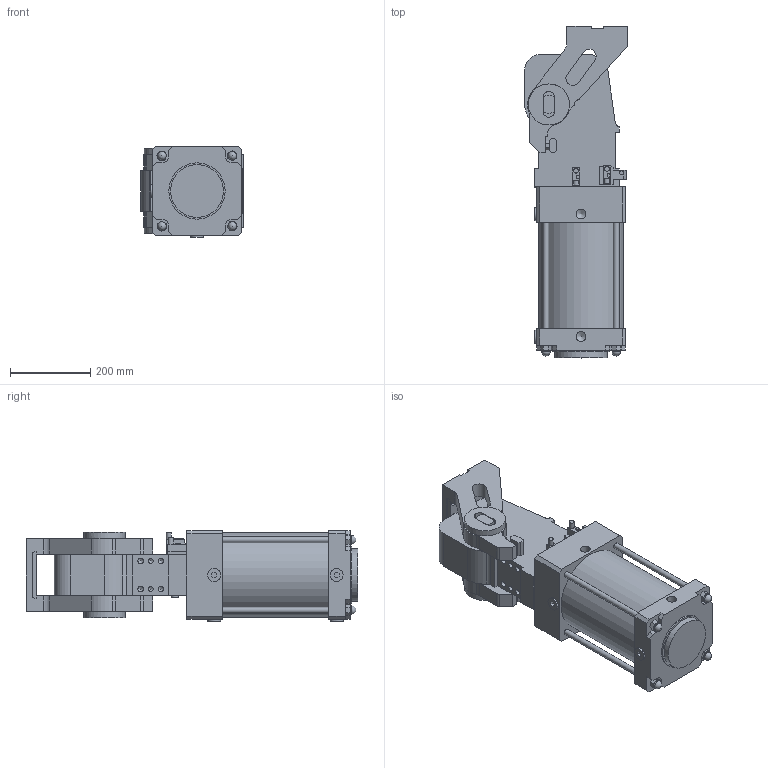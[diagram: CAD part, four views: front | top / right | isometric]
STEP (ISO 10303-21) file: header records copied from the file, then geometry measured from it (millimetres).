
FILE_DESCRIPTION(/* description */ (''),/* implementation_level */ '2;1');
FILE_NAME(/* name */ 'S:\Tom\INVENTOR FILES\AUTOMOTIVE\VEP\DUMP UNITS\C05.P015 RFM.2-RF.2\C05.P015 RFM.2-RF.2\RFM200\SATs\XPUZ200.2-76-4-ESL-P-G-X.stp',/* time_stamp */ '2018-07-29T18:33:56+01:00',/* author */ ('carl'),/* organization */ (''),/* preprocessor_version */ 'ST-DEVELOPER v16.13',/* originating_system */ 'Autodesk Inventor 2018',/* authorisation */ '');
FILE_SCHEMA (('AUTOMOTIVE_DESIGN { 1 0 10303 214 3 1 1 }'));
Length unit declared in the file: millimetre
Products named in the file (11): XPUZ200.2-76-4-ESL-P-G-X_TOP; XPUZ200; XPUZ200_1; XPUZ200_2; XPUZ200_3; XPUZ200_4; XPUZ200_5; XPUZ200_6; XPUZ200_7; XPUZ200_8; XPUZ200_9
Assembly tree (10 placements, depth 2):
  XPUZ200.2-76-4-ESL-P-G-X_TOP
    XPUZ200
    XPUZ200_1
    XPUZ200_2
    XPUZ200_3
    XPUZ200_4
    XPUZ200_5
    XPUZ200_6
    XPUZ200_7
    XPUZ200_8
    XPUZ200_9
Bounding box: 255 x 825 x 225 mm (x, y, z)
Volume: 26103554.4 mm3; surface area: 1084238.6 mm2
Topology: 10 solids, 10 shells, 428 faces, 1074 edges, 707 vertices
Faces by surface type: plane 288, cylinder 118, cone 18, sphere 4
Full cylindrical faces by diameter (mm): 5.5 x2, 8.5 x2, 10 x3, 10.2 x1, 11.8 x2, 12 x8, 13 x1, 14 x16, 18 x1, 21 x4, 24.5 x6, 26 x4, 32 x4, 45 x1, 50.5 x1, 60 x2, 102 x2, 131 x1, 140 x1, 210 x1
Entity records: 12501 total; most frequent: DIRECTION 2100, CARTESIAN_POINT 2087, ORIENTED_EDGE 1920, EDGE_CURVE 960, LINE 718, VECTOR 718, AXIS2_PLACEMENT_3D 691, VERTEX_POINT 678
